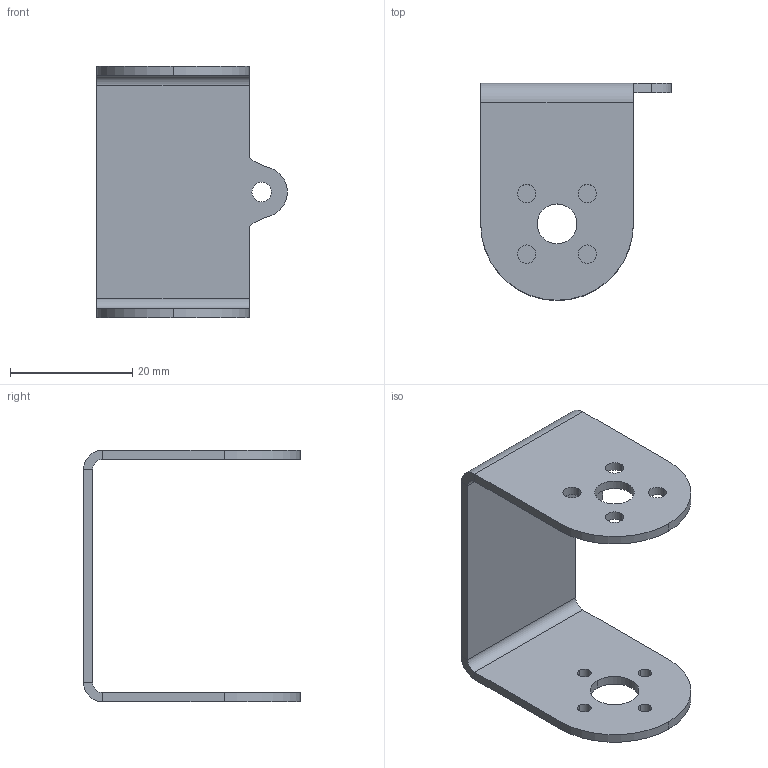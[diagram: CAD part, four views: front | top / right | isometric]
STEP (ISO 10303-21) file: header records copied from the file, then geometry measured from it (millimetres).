
FILE_DESCRIPTION (( 'STEP AP214' ), '1' );
FILE_NAME ('30x Bracket F.STEP', '2024-02-28T21:00:00', ( '' ), ( '' ), 'SwSTEP 2.0', 'SolidWorks 2023', '' );
FILE_SCHEMA (( 'AUTOMOTIVE_DESIGN' ));
Length unit declared in the file: millimetre
Products named in the file (1): 30x Bracket F
Bounding box: 31.2 x 35.5 x 41.2 mm (x, y, z)
Volume: 3685.5 mm3; surface area: 5469.8 mm2
Topology: 1 solids, 1 shells, 50 faces, 128 edges, 80 vertices
Faces by surface type: cylinder 33, plane 17
Entity records: 1597 total; most frequent: DIRECTION 296, CARTESIAN_POINT 259, ORIENTED_EDGE 256, EDGE_CURVE 128, AXIS2_PLACEMENT_3D 117, VERTEX_POINT 80, EDGE_LOOP 72, CIRCLE 66
